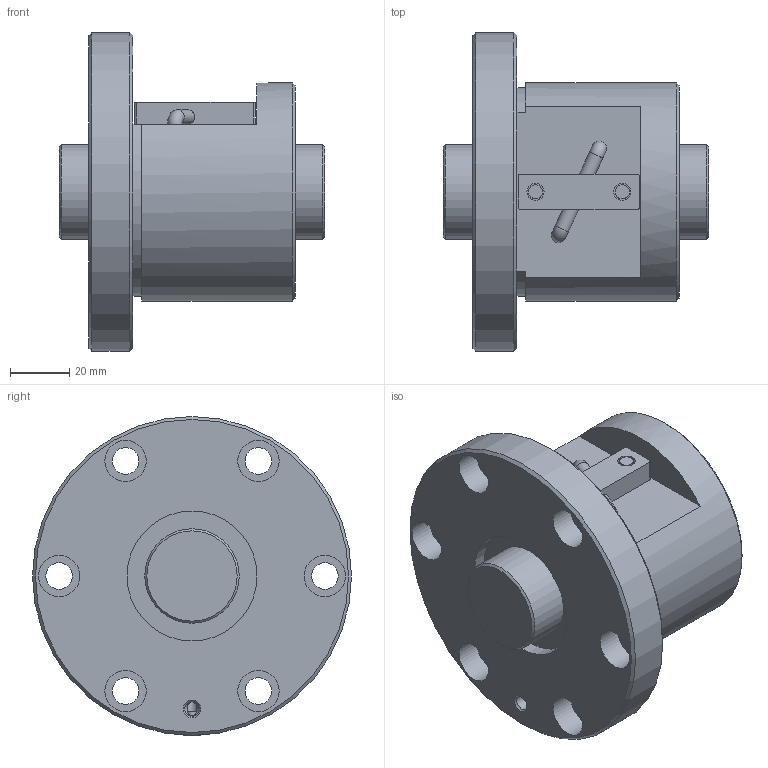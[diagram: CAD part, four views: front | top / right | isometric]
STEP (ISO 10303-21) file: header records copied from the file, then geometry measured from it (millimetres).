
FILE_DESCRIPTION(/* description */ ('STEP AP203'),/* implementation_level */ '2;1');
FILE_NAME(/* name */ 'BNF3210V-2.5RRG1+90LC0_000_rev',/* time_stamp */ '2024-08-06T08:37:35+02:00',/* author */ ('License CC BY-ND 4.0'),/* organization */ ('CADENAS'),/* preprocessor_version */ 'ST-DEVELOPER v19.3',/* originating_system */ 'PARTsolutions',/* authorisation */ ' ');
FILE_SCHEMA (('CONFIG_CONTROL_DESIGN'));
Length unit declared in the file: millimetre
Products named in the file (3): BNF3210V-2.5RRG1+90LC0_000_rev; BNF 3210A-2.5RR000 Shaft; BNF 3210A-2.5RR Nut
Assembly tree (2 placements, depth 2):
  BNF3210V-2.5RRG1+90LC0_000_rev
    BNF 3210A-2.5RR000 Shaft
    BNF 3210A-2.5RR Nut
Bounding box: 90 x 108 x 108 mm (x, y, z)
Volume: 351579.8 mm3; surface area: 57601.8 mm2
Topology: 2 solids, 2 shells, 69 faces, 148 edges, 96 vertices
Faces by surface type: cylinder 33, plane 27, cone 7, torus 2
Full cylindrical faces by diameter (mm): 3.75 x2, 4.8 x2, 4.917 x1, 4.931 x2, 5.8 x2, 9 x6, 14 x6, 32 x2, 44 x2, 74 x1, 108 x1
Entity records: 1757 total; most frequent: DIRECTION 312, CARTESIAN_POINT 298, ORIENTED_EDGE 200, AXIS2_PLACEMENT_3D 144, EDGE_LOOP 140, FACE_BOUND 140, EDGE_CURVE 100, VERTEX_POINT 86
